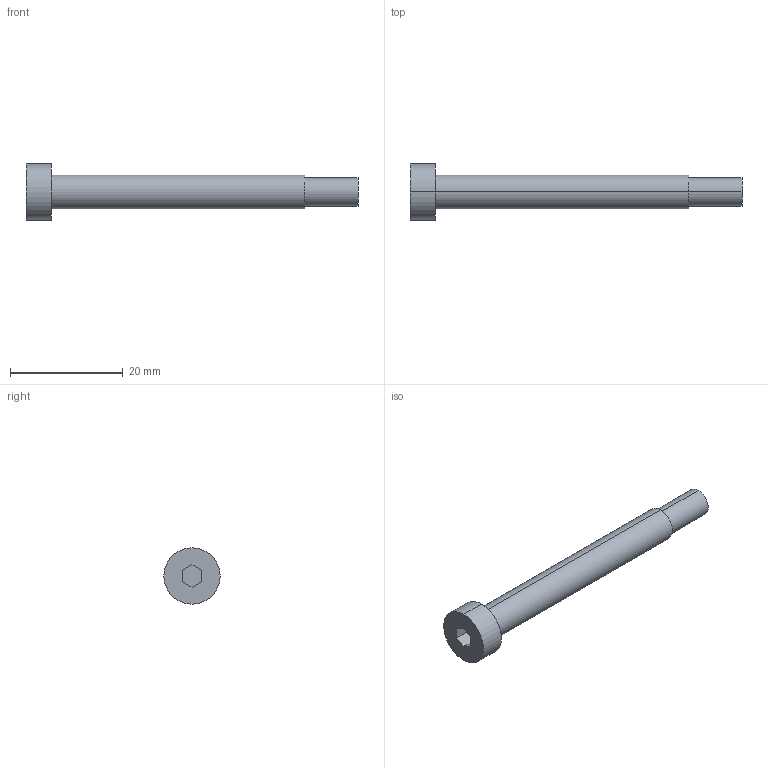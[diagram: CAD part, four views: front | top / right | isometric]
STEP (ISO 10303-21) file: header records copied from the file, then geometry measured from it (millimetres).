
FILE_DESCRIPTION (( 'STEP AP214' ), '1' );
FILE_NAME ('TPM-5x45.STEP', '2020-07-06T13:17:13', ( '' ), ( '' ), 'SwSTEP 2.0', 'SolidWorks 2018', '' );
FILE_SCHEMA (( 'AUTOMOTIVE_DESIGN' ));
Length unit declared in the file: millimetre
Products named in the file (1): TPM-5x45
Bounding box: 59 x 10 x 10 mm (x, y, z)
Volume: 1781.1 mm3; surface area: 1331.9 mm2
Topology: 1 solids, 1 shells, 17 faces, 36 edges, 24 vertices
Faces by surface type: plane 11, cylinder 6
Entity records: 496 total; most frequent: DIRECTION 84, CARTESIAN_POINT 78, ORIENTED_EDGE 72, EDGE_CURVE 36, AXIS2_PLACEMENT_3D 30, VERTEX_POINT 24, LINE 24, VECTOR 24
